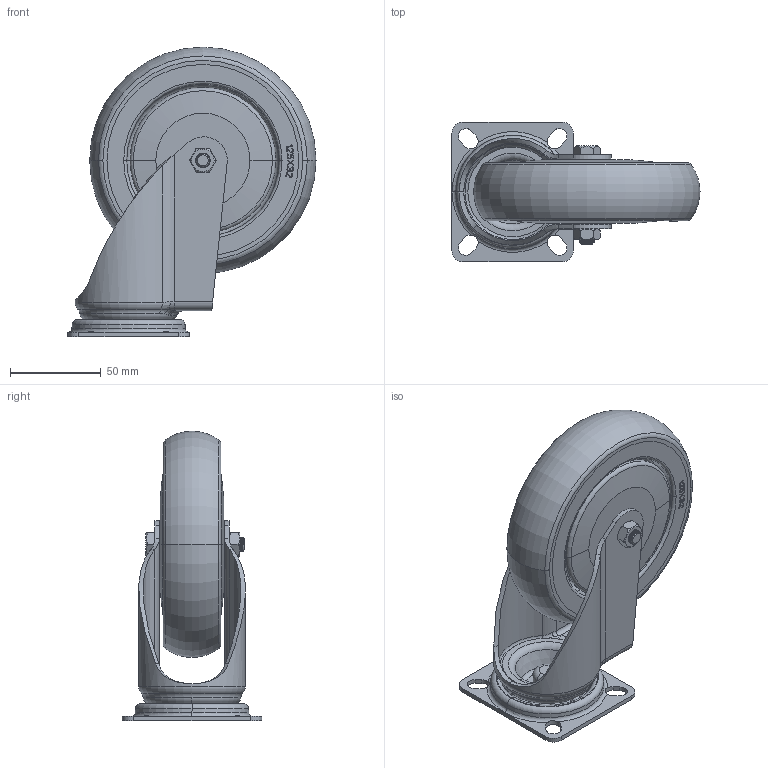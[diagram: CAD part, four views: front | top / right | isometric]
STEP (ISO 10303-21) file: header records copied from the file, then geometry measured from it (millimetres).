
FILE_DESCRIPTION((''),'2;1');
FILE_NAME('5101-125_ASM','2018-09-15T',('new'),(''),'PRO/ENGINEER BY PARAMETRIC TECHNOLOGY CORPORATION, 2015240','PRO/ENGINEER BY PARAMETRIC TECHNOLOGY CORPORATION, 2015240','');
FILE_SCHEMA(('CONFIG_CONTROL_DESIGN'));
Length unit declared in the file: millimetre
Products named in the file (13): 125-HUO-DONG-ZI-JIA12_0; BJ6___12_0; BJ5___12_0; 150X32SBP___12_0; 67X77-FK; M8X60LS___12_0; M8LM___12_0; 6202Z___12_0; 125X32NS___12_0; 125X32DL___12_0; 125X32JSG___12_0; 125-112_0_ASM; 5101-125_ASM
Assembly tree (13 placements, depth 3):
  5101-125_ASM
    125-HUO-DONG-ZI-JIA12_0
    BJ6___12_0
    BJ5___12_0
    150X32SBP___12_0
    67X77-FK
    125-112_0_ASM
      M8X60LS___12_0
      M8LM___12_0
      6202Z___12_0
      125X32NS___12_0
      125X32DL___12_0
      125X32JSG___12_0  x2
Bounding box: 137 x 77 x 160 mm (x, y, z)
Volume: 331550.1 mm3; surface area: 161148.9 mm2
Topology: 68 solids, 68 shells, 915 faces, 2403 edges, 1432 vertices
Faces by surface type: plane 446, cylinder 146, sphere 114, torus 107, cone 54, bspline 48
Entity records: 32303 total; most frequent: CARTESIAN_POINT 11623, DIRECTION 4219, ORIENTED_EDGE 4186, EDGE_CURVE 2093, AXIS2_PLACEMENT_3D 1459, VERTEX_POINT 1382, VECTOR 1301, LINE 1301
